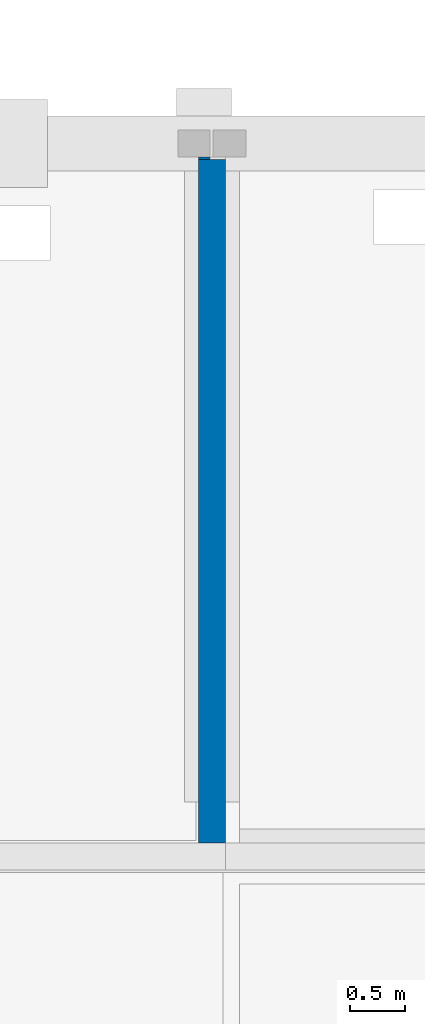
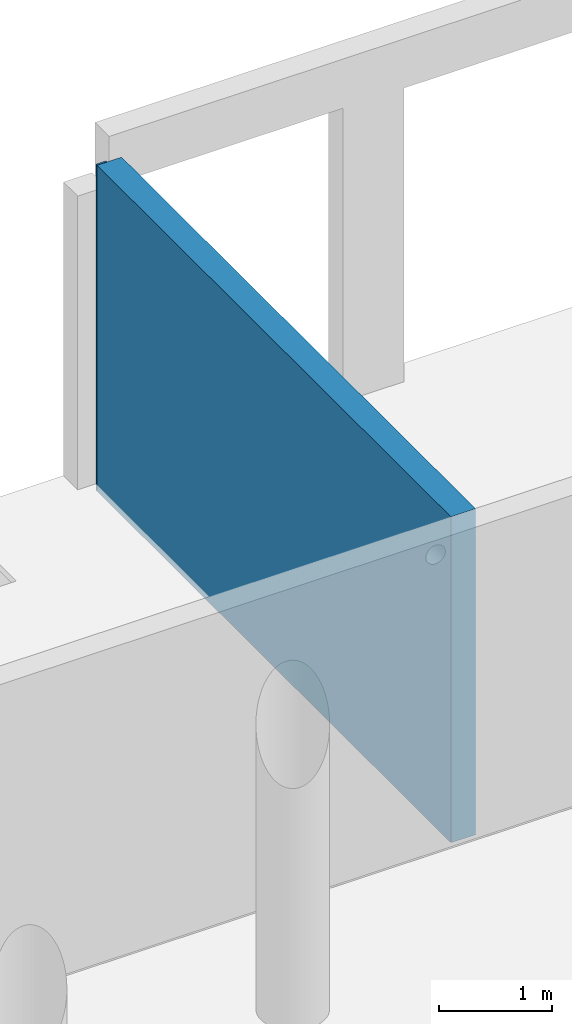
# One storey, part 48 of 60: 2 walls, 1 opening.
"""IFC2X3 building model written with IfcOpenShell, lengths in millimetres."""

import ifcopenshell
import ifcopenshell.guid

model = None  # the IFC model being written
_history = None  # IfcOwnerHistory: only IFC2X3 demands one
_inside = {}  # id of a spatial element -> (the spatial element, [elements in it])
_under = {}  # id of a project, library or spatial element -> (it, [spatial elements below it])
_declared = {}  # id of a project -> (the project, [libraries it declares])
_typed = {}  # id of a type object -> (the type object, [elements of that type])
_made_of = {}  # id of a material, layer set ... -> (it, [elements and type objects made of it])


def new_model(schema):
    """Start an empty IFC model of exactly this schema.

    Asked for "IFC4X3", IfcOpenShell would pick the latest addendum, in which some entities
    have other attributes; the version numbers below select the first issue.
    IFC2X3 requires an IfcOwnerHistory on every rooted entity: one is made here for all.
    """
    global model, _history
    if schema == "IFC4X3":
        model = ifcopenshell.file(schema_version=(4, 3, 0, 0))
    else:
        model = ifcopenshell.file(schema=schema)
    _inside.clear()
    _under.clear()
    _declared.clear()
    _typed.clear()
    _made_of.clear()
    _history = None
    if model.schema == "IFC2X3":
        org = make("IfcOrganization", Name="unknown")
        user = make(
            "IfcPersonAndOrganization",
            ThePerson=make("IfcPerson", FamilyName="unknown"),
            TheOrganization=org,
        )
        app = make(
            "IfcApplication",
            ApplicationDeveloper=org,
            Version="unknown",
            ApplicationFullName="unknown",
            ApplicationIdentifier="unknown",
        )
        _history = make(
            "IfcOwnerHistory",
            OwningUser=user,
            OwningApplication=app,
            ChangeAction="ADDED",
            CreationDate=0,
        )
    return model


def make(cls, **values):
    """One entity of the class cls with the attributes given. An attribute that is None is left unset."""
    return model.create_entity(
        cls, **{name: value for name, value in values.items() if value is not None}
    )


def entity(cls, *values):
    """Any entity or typed value of the class cls, its attributes in the order of the schema. None: left unset."""
    e = model.create_entity(cls)
    for i, value in enumerate(values):
        if value is not None:
            e[i] = value
    return e


def rooted(cls, **values):
    """An entity with a GlobalId (a new one), such as an element, a storey or a relation."""
    return make(cls, GlobalId=ifcopenshell.guid.new(), OwnerHistory=_history, **values)


def si_unit(unit_type, name, prefix=None):
    """IfcSIUnit, for example si_unit("LENGTHUNIT", "METRE", prefix="MILLI")."""
    return make("IfcSIUnit", UnitType=unit_type, Prefix=prefix, Name=name)


def converted_unit(unit_type, name, factor, base, dimensions=None, offset=None):
    """IfcConversionBasedUnit, such as the inch: factor (a typed value) times the base unit."""
    return make(
        "IfcConversionBasedUnit"
        if offset is None
        else "IfcConversionBasedUnitWithOffset",
        ConversionOffset=offset,
        Dimensions=None
        if dimensions is None
        else entity("IfcDimensionalExponents", *dimensions),
        UnitType=unit_type,
        Name=name,
        ConversionFactor=make(
            "IfcMeasureWithUnit", ValueComponent=factor, UnitComponent=base
        ),
    )


def derived_unit(unit_type, elements):
    """IfcDerivedUnit: a product of units, each with its exponent."""
    return make(
        "IfcDerivedUnit",
        Elements=[
            make("IfcDerivedUnitElement", Unit=unit, Exponent=power)
            for unit, power in elements
        ],
        UnitType=unit_type,
    )


def assignment(units):
    """IfcUnitAssignment: the units of a project."""
    return None if units is None else make("IfcUnitAssignment", Units=units)


def point(xyz):
    """IfcCartesianPoint."""
    return None if xyz is None else make("IfcCartesianPoint", Coordinates=xyz)


def direction(xyz):
    """IfcDirection."""
    return None if xyz is None else make("IfcDirection", DirectionRatios=xyz)


def frame(location, z_axis=None, x_axis=None):
    """IfcAxis2Placement3D, a coordinate frame: its origin and axes. An axis left out is left unset."""
    return make(
        "IfcAxis2Placement3D",
        Location=point(location),
        Axis=direction(z_axis),
        RefDirection=direction(x_axis),
    )


def frame_2d(location, x_axis=None):
    """IfcAxis2Placement2D, a coordinate frame in the plane: its origin and x axis."""
    return make(
        "IfcAxis2Placement2D", Location=point(location), RefDirection=direction(x_axis)
    )


def origin():
    """The frame at (0, 0, 0) with its axes left unset."""
    return frame((0.0, 0.0, 0.0))


def origin_2d_with_axis():
    """The frame at (0, 0) in the plane with the x axis (1, 0) written out."""
    return frame_2d((0.0, 0.0), x_axis=(1.0, 0.0))


def place(relative_to, where):
    """IfcLocalPlacement: puts the frame where relative to a parent placement (None: the world)."""
    return make(
        "IfcLocalPlacement", PlacementRelTo=relative_to, RelativePlacement=where
    )


def context(
    kind, dimensions, precision=None, world=None, true_north=None, identifier=None
):
    """IfcGeometricRepresentationContext, for example the 3D "Model" context."""
    return make(
        "IfcGeometricRepresentationContext",
        ContextIdentifier=identifier,
        ContextType=kind,
        CoordinateSpaceDimension=dimensions,
        Precision=precision,
        WorldCoordinateSystem=world,
        TrueNorth=true_north,
    )


def subcontext(parent, identifier, kind, view, scale=None):
    """IfcGeometricRepresentationSubContext, for example "Body" below "Model"."""
    return make(
        "IfcGeometricRepresentationSubContext",
        ContextIdentifier=identifier,
        ContextType=kind,
        ParentContext=parent,
        TargetScale=scale,
        TargetView=view,
    )


def project(units=None, contexts=None):
    """IfcProject with its units and contexts."""
    return rooted(
        "IfcProject",
        Name="project",
        RepresentationContexts=contexts,
        UnitsInContext=assignment(units),
    )


def spatial(cls, under=None, at=None, **own):
    """A site, building, storey or space (cls), placed at a placement, below another one or the project."""
    s = rooted(cls, ObjectPlacement=at, **own)
    if under is not None:
        _under.setdefault(under.id(), (under, []))[1].append(s)
    return s


def profile(cls, at=None, kind="AREA", **sizes):
    """A parametric profile (cls). Its sizes go by their IFC names, for example OverallWidth=200.0."""
    return make(cls, ProfileType=kind, Position=at, **sizes)


def rectangle(**sizes):
    """IfcRectangleProfileDef."""
    return profile("IfcRectangleProfileDef", **sizes)


def extrude(swept, where, along, depth):
    """IfcExtrudedAreaSolid: the profile swept, set in the frame where, extruded along a direction by depth."""
    return make(
        "IfcExtrudedAreaSolid",
        SweptArea=swept,
        Position=where,
        ExtrudedDirection=direction(along),
        Depth=depth,
    )


def shape(context_of_items, identifier, shape_type, items):
    """IfcShapeRepresentation: the items that make up one representation, for example the "Body"."""
    return make(
        "IfcShapeRepresentation",
        ContextOfItems=context_of_items,
        RepresentationIdentifier=identifier,
        RepresentationType=shape_type,
        Items=items,
    )


def material(Name=None, Category=None):
    """IfcMaterial."""
    return make("IfcMaterial", Name=Name, Category=Category)


def layer(
    of_material, thickness, ventilated=None, Name=None, Category=None, Priority=None
):
    """IfcMaterialLayer: one layer of a wall or slab, of a material (None: an air gap)."""
    return make(
        "IfcMaterialLayer",
        Material=of_material,
        LayerThickness=thickness,
        IsVentilated=ventilated,
        Name=Name,
        Category=Category,
        Priority=Priority,
    )


def layer_set(layers, Name=None):
    """IfcMaterialLayerSet."""
    return make("IfcMaterialLayerSet", MaterialLayers=layers, LayerSetName=Name)


def layer_usage(for_layer_set, set_direction, sense, offset, extent=None):
    """IfcMaterialLayerSetUsage: how a layer set lies in its element."""
    return make(
        "IfcMaterialLayerSetUsage",
        ForLayerSet=for_layer_set,
        LayerSetDirection=set_direction,
        DirectionSense=sense,
        OffsetFromReferenceLine=offset,
        ReferenceExtent=extent,
    )


def made_of(thing, what):
    """Note that an element or type object is made of a material, layer set ...; save() writes the relation."""
    if what is not None:
        _made_of.setdefault(what.id(), (what, []))[1].append(thing)
    return thing


def type_object(cls, material=None, **own):
    """A type object (cls), such as IfcWallType, which elements share."""
    return made_of(rooted(cls, **own), material)


def element(
    cls,
    number,
    at=None,
    inside=None,
    cuts=None,
    type_object=None,
    material=None,
    context=None,
    identifier="Body",
    shape_type=None,
    held_by="IfcProductDefinitionShape",
    body=None,
    shapes=None,
    **own,
):
    """One element of the class cls, such as IfcWall. Its Tag is "e" and its number.

    at: its placement. inside: the storey or other place that contains it. cuts: it is an
    opening in that element (IfcRelVoidsElement). A single representation is given by context,
    identifier, shape_type and body (its items); several are given by shapes. held_by: the class
    of the entity that holds the representations. save() writes the other relations.
    """
    e = rooted(cls, Tag="e%d" % number, ObjectPlacement=at, **own)
    if body is not None:
        shapes = [shape(context, identifier, shape_type, body)]
    if shapes is not None:
        e.Representation = make(held_by, Representations=shapes)
    if inside is not None:
        _inside.setdefault(inside.id(), (inside, []))[1].append(e)
    if cuts is not None:
        rooted(
            "IfcRelVoidsElement", RelatingBuildingElement=cuts, RelatedOpeningElement=e
        )
    if type_object is not None:
        _typed.setdefault(type_object.id(), (type_object, []))[1].append(e)
    return made_of(e, material)


def aggregate(whole, parts):
    """IfcRelAggregates: a whole, such as a stair, and the parts it consists of."""
    return rooted("IfcRelAggregates", RelatingObject=whole, RelatedObjects=parts)


def save(model, path):
    """Write the relations noted so far, then the file.

    IfcRelAggregates (storeys below a building ...), IfcRelContainedInSpatialStructure (elements
    in a storey), IfcRelDefinesByType, IfcRelAssociatesMaterial and IfcRelDeclares: one each for
    every whole, place, type object, material and project.
    """
    for whole, parts in _under.values():
        aggregate(whole, parts)
    for where, things in _inside.values():
        rooted(
            "IfcRelContainedInSpatialStructure",
            RelatedElements=things,
            RelatingStructure=where,
        )
    for kind, things in _typed.values():
        rooted("IfcRelDefinesByType", RelatedObjects=things, RelatingType=kind)
    for what, things in _made_of.values():
        rooted("IfcRelAssociatesMaterial", RelatedObjects=things, RelatingMaterial=what)
    for by, libraries in _declared.values():
        rooted("IfcRelDeclares", RelatingContext=by, RelatedDefinitions=libraries)
    model.write(path)


model = new_model("IFC2X3")

# Units and contexts
model_context = context("Model", 3, precision=0.01, world=origin(), true_north=direction((6.12303176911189e-17, 1.0)))
body_context = subcontext(model_context, "Body", "Model", "MODEL_VIEW")
ifc_project = project(units=[si_unit("LENGTHUNIT", "METRE", prefix="MILLI"), si_unit("AREAUNIT", "SQUARE_METRE"), si_unit("VOLUMEUNIT", "CUBIC_METRE"), converted_unit("PLANEANGLEUNIT", "DEGREE", entity("IfcRatioMeasure", 0.0174532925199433), si_unit("PLANEANGLEUNIT", "RADIAN"), dimensions=[0, 0, 0, 0, 0, 0, 0]), si_unit("MASSUNIT", "GRAM", prefix="KILO"), derived_unit("MASSDENSITYUNIT", [(si_unit("MASSUNIT", "GRAM", prefix="KILO"), 1), (si_unit("LENGTHUNIT", "METRE"), -3)]), si_unit("TIMEUNIT", "SECOND"), si_unit("FREQUENCYUNIT", "HERTZ"), si_unit("THERMODYNAMICTEMPERATUREUNIT", "DEGREE_CELSIUS"), derived_unit("THERMALTRANSMITTANCEUNIT", [(si_unit("MASSUNIT", "GRAM", prefix="KILO"), 1), (si_unit("THERMODYNAMICTEMPERATUREUNIT", "KELVIN"), -1), (si_unit("TIMEUNIT", "SECOND"), -3)]), derived_unit("VOLUMETRICFLOWRATEUNIT", [(si_unit("LENGTHUNIT", "METRE"), 3), (si_unit("TIMEUNIT", "SECOND"), -1)]), si_unit("ELECTRICCURRENTUNIT", "AMPERE"), si_unit("ELECTRICVOLTAGEUNIT", "VOLT"), si_unit("POWERUNIT", "WATT"), si_unit("FORCEUNIT", "NEWTON", prefix="KILO"), si_unit("ILLUMINANCEUNIT", "LUX"), si_unit("LUMINOUSFLUXUNIT", "LUMEN"), si_unit("LUMINOUSINTENSITYUNIT", "CANDELA"), derived_unit("USERDEFINED", [(si_unit("MASSUNIT", "GRAM", prefix="KILO"), -1), (si_unit("LENGTHUNIT", "METRE"), -2), (si_unit("TIMEUNIT", "SECOND"), 3), (si_unit("LUMINOUSFLUXUNIT", "LUMEN"), 1)]), derived_unit("LINEARVELOCITYUNIT", [(si_unit("LENGTHUNIT", "METRE"), 1), (si_unit("TIMEUNIT", "SECOND"), -1)]), si_unit("PRESSUREUNIT", "PASCAL"), derived_unit("USERDEFINED", [(si_unit("LENGTHUNIT", "METRE"), -2), (si_unit("MASSUNIT", "GRAM", prefix="KILO"), 1), (si_unit("TIMEUNIT", "SECOND"), -2)])], contexts=[model_context])

# Site, building, storey
site_placement = place(None, origin())
site = spatial("IfcSite", under=ifc_project, at=site_placement, Name="Default", CompositionType="ELEMENT")
building_placement = place(site_placement, origin())
building = spatial("IfcBuilding", under=site, at=building_placement, Name="niet gebruiken", CompositionType="ELEMENT")
storey_placement = place(building_placement, origin())
storey = spatial("IfcBuildingStorey", under=building, at=storey_placement, Name="00 begane grond", CompositionType="ELEMENT", Elevation=0.0)

# Wall, opening
ifc_material = material(Name="NLRS_f2_beton ihwg")
ifc_layer_1 = layer(ifc_material, 250.0)
ifc_layer_set_1 = layer_set([ifc_layer_1], Name="Basic Wall:NLRS_22.21_WA_beton ihwg d=250_gen")
ifc_layer_usage_1 = layer_usage(ifc_layer_set_1, "AXIS2", "NEGATIVE", 125.0)
wall_type_1 = type_object("IfcWallType", Name="Basic Wall:NLRS_22.21_WA_beton ihwg d=250_gen", PredefinedType="STANDARD", material=ifc_layer_set_1)
wall_1_placement = place(storey_placement, frame((108000.0, 52986.0, -160.0), z_axis=(0.0, 0.0, 1.0), x_axis=(0.0, -1.0, 0.0)))
wall_1 = element("IfcWallStandardCase", 1, at=wall_1_placement, inside=storey, type_object=wall_type_1, material=ifc_layer_usage_1, Name="Basic Wall:NLRS_22.21_WA_beton ihwg d=250_gen", ObjectType="Basic Wall:NLRS_22.21_WA_beton ihwg d=250_gen", context=body_context, shape_type="SweptSolid", body=[
    extrude(rectangle(XDim=6239.99999999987, YDim=250.000000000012, at=frame_2d((3119.99999999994, -3.80850906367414e-12), x_axis=(-1.0, 0.0))), origin(), (0.0, 0.0, 1.0), 3510.0),
])
opening_placement = place(wall_1_placement, origin())
element("IfcOpeningElement", 2, at=opening_placement, cuts=wall_1, Name="Basic Wall:NLRS_22.21_WA_beton ihwg d=250_gen", ObjectType="Recess", context=body_context, shape_type="SweptSolid", body=[
    extrude(rectangle(XDim=890.0, YDim=49.9999999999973, at=origin_2d_with_axis()), frame((4490.0, 85.0, 515.0), z_axis=(0.0, 1.0, 0.0), x_axis=(0.0, 0.0, -1.0)), (0.0, 0.0, 1.0), 39.9999999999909),
])

# Wall
ifc_layer_2 = layer(ifc_material, 105.0)
ifc_layer_set_2 = layer_set([ifc_layer_2], Name="Basic Wall:NLRS_22.21_WA_beton ihwg d=105_gen")
ifc_layer_usage_2 = layer_usage(ifc_layer_set_2, "AXIS2", "NEGATIVE", 52.5)
wall_type_2 = type_object("IfcWallType", Name="Basic Wall:NLRS_22.21_WA_beton ihwg d=105_gen", PredefinedType="STANDARD", material=ifc_layer_set_2)
wall_2_placement = place(storey_placement, frame((107927.499999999, 53006.0, -160.0), z_axis=(0.0, 0.0, 1.0), x_axis=(0.0, -1.0, 0.0)))
element("IfcWallStandardCase", 3, at=wall_2_placement, inside=storey, type_object=wall_type_2, material=ifc_layer_usage_2, Name="Basic Wall:NLRS_22.21_WA_beton ihwg d=105_gen", ObjectType="Basic Wall:NLRS_22.21_WA_beton ihwg d=105_gen", context=body_context, shape_type="SweptSolid", body=[
    extrude(rectangle(XDim=20.0000000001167, YDim=104.999999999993, at=frame_2d((10.0000000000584, 0.0), x_axis=(-1.0, 0.0))), origin(), (0.0, 0.0, 1.0), 3510.00000000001),
])

save(model, "model.ifc")
